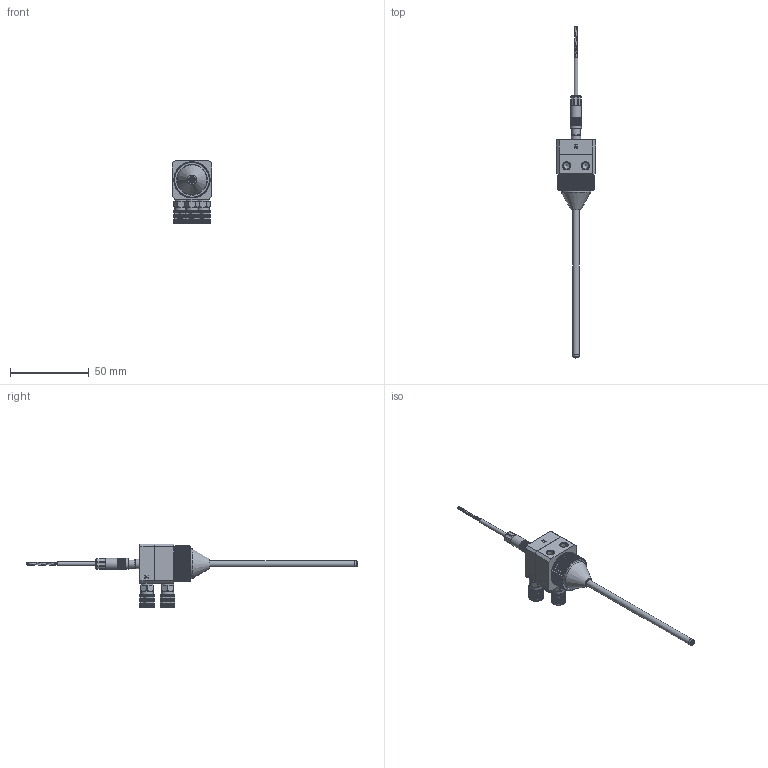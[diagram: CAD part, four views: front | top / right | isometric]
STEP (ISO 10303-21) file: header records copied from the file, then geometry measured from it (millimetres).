
FILE_DESCRIPTION (( 'STEP AP214' ), '1' );
FILE_NAME ('DAS-30-100F-4-HP-SENSOR.STEP', '2024-10-11T09:56:26', ( '' ), ( '' ), 'SwSTEP 2.0', 'SolidWorks 2024', '' );
FILE_SCHEMA (( 'AUTOMOTIVE_DESIGN' ));
Length unit declared in the file: millimetre
Products named in the file (1): DAS-30-100F-4-HP-SENSOR
Bounding box: 25 x 211.2 x 40.5 mm (x, y, z)
Volume: 22082 mm3; surface area: 13833.6 mm2
Topology: 2 solids, 4 shells, 1792 faces, 4747 edges, 3021 vertices
Faces by surface type: plane 1076, cylinder 447, cone 253, bspline 16
Full cylindrical faces by diameter (mm): 0.5 x1, 0.8 x3, 1 x4, 1.1 x2, 1.5 x4, 2 x3, 2.5 x2, 3 x3, 4 x7, 4.198 x2, 4.2 x2, 4.5 x3, 5.2 x2, 5.4 x4, 5.5 x4, 5.7 x3, 6 x1, 6.2 x3, 7 x2, 7.498 x3, 7.5 x3, 8 x7, 8.7 x3, 10 x1, 12 x1, 18.8 x1, 19 x1, 19.2 x1, 19.8 x1, 20.2 x1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
Entity records: 58654 total; most frequent: CARTESIAN_POINT 15935, ORIENTED_EDGE 9016, DIRECTION 8545, EDGE_CURVE 4508, AXIS2_PLACEMENT_3D 2997, VERTEX_POINT 2938, VECTOR 2551, LINE 2551
